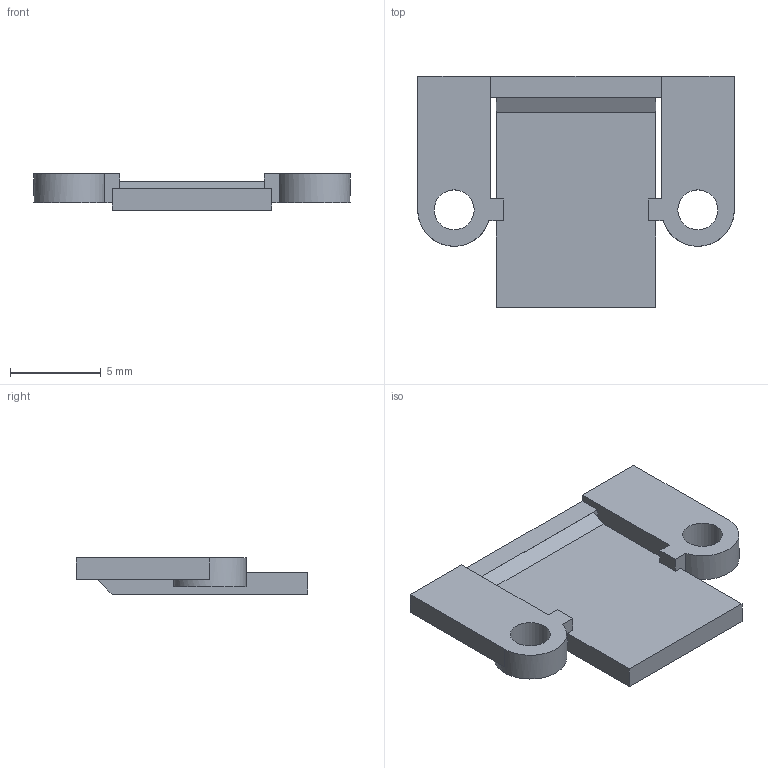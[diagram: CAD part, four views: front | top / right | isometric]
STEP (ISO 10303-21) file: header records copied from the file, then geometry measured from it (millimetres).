
FILE_DESCRIPTION(('Open CASCADE Model'),'2;1');
FILE_NAME('Open CASCADE Shape Model','2026-10-01T12:00:19',('Author'),( 'Open CASCADE'),'Open CASCADE STEP processor 7.9','Open CASCADE 7.9' ,'Unknown');
FILE_SCHEMA(('AUTOMOTIVE_DESIGN { 1 0 10303 214 1 1 1 1 }'));
Length unit declared in the file: millimetre
Products named in the file (1): Open CASCADE STEP translator 7.9 2
Bounding box: 17.4 x 12.73 x 2 mm (x, y, z)
Volume: 214.5 mm3; surface area: 493.5 mm2
Topology: 1 solids, 1 shells, 29 faces, 93 edges, 62 vertices
Faces by surface type: plane 25, cylinder 4
Full cylindrical faces by diameter (mm): 2.2 x2
Entity records: 2254 total; most frequent: CARTESIAN_POINT 396, DIRECTION 339, LINE 252, VECTOR 252, ORIENTED_EDGE 186, PCURVE 186, DEFINITIONAL_REPRESENTATION 186, EDGE_CURVE 93
